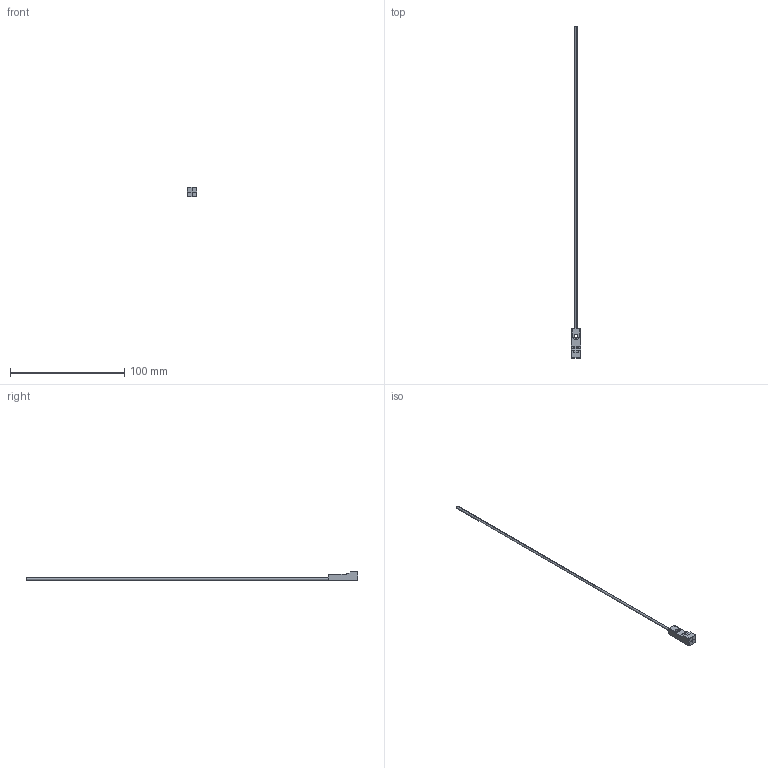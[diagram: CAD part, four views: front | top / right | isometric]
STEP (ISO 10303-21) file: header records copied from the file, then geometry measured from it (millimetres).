
FILE_DESCRIPTION (( 'STEP AP214' ), '1' );
FILE_NAME ('E09.STEP', '2015-09-23T09:34:36', ( '' ), ( '' ), 'SwSTEP 2.0', 'SolidWorks 2013', '' );
FILE_SCHEMA (( 'AUTOMOTIVE_DESIGN' ));
Length unit declared in the file: millimetre
Products named in the file (1): E09
Bounding box: 8 x 291 x 8 mm (x, y, z)
Volume: 2280.8 mm3; surface area: 2731.5 mm2
Topology: 1 solids, 1 shells, 74 faces, 181 edges, 107 vertices
Faces by surface type: plane 36, cylinder 28, torus 5, sphere 5
Entity records: 2277 total; most frequent: CARTESIAN_POINT 443, DIRECTION 360, ORIENTED_EDGE 356, EDGE_CURVE 178, AXIS2_PLACEMENT_3D 122, VECTOR 116, LINE 116, VERTEX_POINT 107
